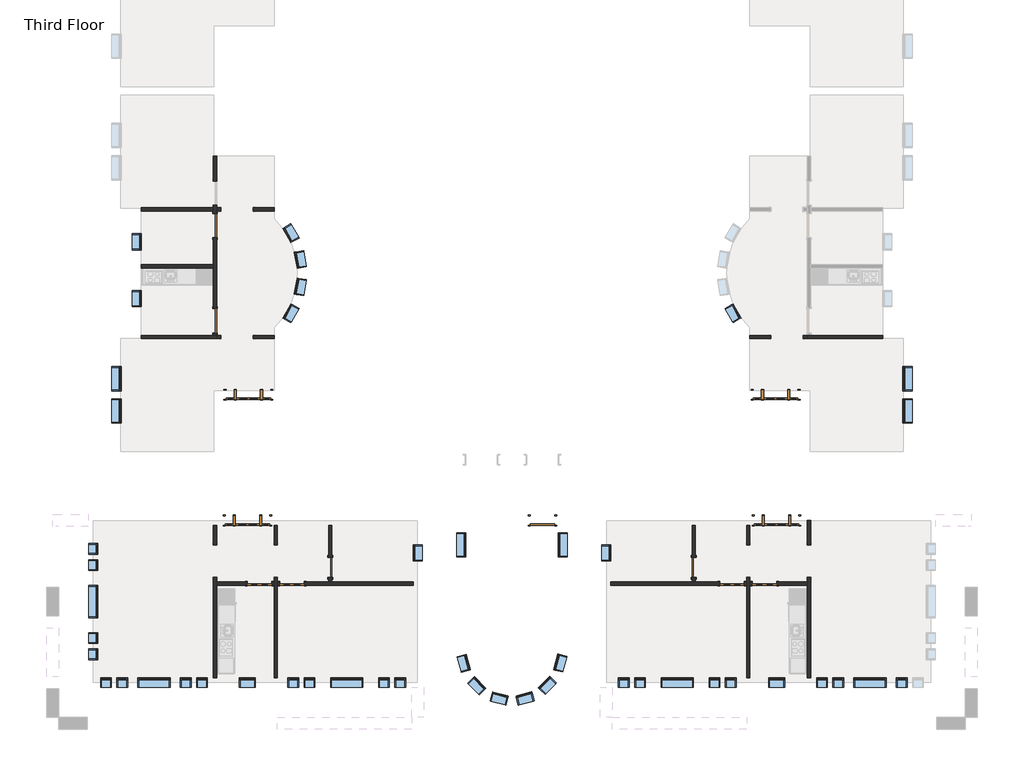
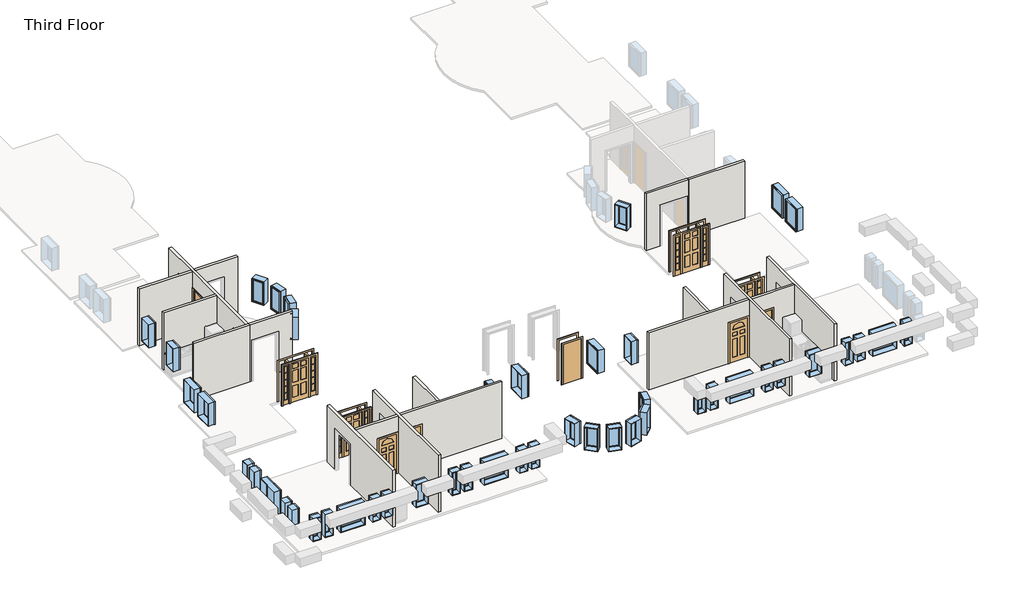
# One storey, part 1 of 4: 47 windows, 18 walls, 13 doors.
"""IFC4 building model written with IfcOpenShell, lengths in millimetres."""

from ifc_helpers import new_model, si_unit, frame, origin, place, context, project, spatial, polyline, outline, extrude, faceted_brep, transform, mapped, element, save
from components import door_829da954, door_2e3b4da2, door_4d6c7550, door_e36758a9, door_a1797ceb, door_a3eb833a, door_cc5399a4, door_dba5aa2e, door_ffdb1193, window_da97879f, window_d61ef850, window_60baf983, window_ed80354a, window_15c49d37, window_0e2fc6ce, window_6eb97611, window_d89bf842

model = new_model("IFC4")

# Units and contexts
model_context = context("Model", 3, world=origin())
ifc_project = project(units=[si_unit("LENGTHUNIT", "METRE", prefix="MILLI")], contexts=[model_context])

# Site, building, storey
site = spatial("IfcSite", under=ifc_project)
building = spatial("IfcBuilding", under=site)
storey = spatial("IfcBuildingStorey", under=building, Name="Third Floor", Elevation=6096.0)

# Doors
placement = place(None, origin())
door_shape = door_829da954(model_context)
element("IfcDoor", 1, ObjectType="Single-Decorative 2 : 36\" x 84\"", at=placement, inside=storey, context=model_context, shape_type="MappedRepresentation", body=[
    mapped(door_shape, transform((-6669.0589563, -30331.8808133, 6096.0), x_axis=(1.0, 0.0, 0.0), y_axis=(0.0, 1.0, 0.0), z_axis=(0.0, 0.0, 1.0))),
])
element("IfcDoor", 2, ObjectType="Single-Decorative 2 : 36\" x 84\"", at=placement, inside=storey, context=model_context, shape_type="MappedRepresentation", body=[
    mapped(door_shape, transform((-24420.4839563, -30331.8808133, 6096.0), x_axis=(1.0, 0.0, 0.0), y_axis=(0.0, 1.0, 0.0), z_axis=(0.0, 0.0, 1.0))),
])
door_2_shape = door_2e3b4da2(model_context)
element("IfcDoor", 3, ObjectType="Single-Decorative 2 : 36\" x 84\"", at=placement, inside=storey, context=model_context, shape_type="MappedRepresentation", body=[
    mapped(door_2_shape, transform((-5449.8589563, -30331.8808133, 6096.0), x_axis=(-1.0, 0.0, 0.0), y_axis=(0.0, -1.0, 0.0), z_axis=(0.0, 0.0, 1.0))),
])
element("IfcDoor", 4, ObjectType="Single-Decorative 2 : 36\" x 84\"", at=placement, inside=storey, context=model_context, shape_type="MappedRepresentation", body=[
    mapped(door_2_shape, transform((-23201.2839563, -30331.8808133, 6096.0), x_axis=(-1.0, 0.0, 0.0), y_axis=(0.0, -1.0, 0.0), z_axis=(0.0, 0.0, 1.0))),
])
door_3_shape = door_4d6c7550(model_context)
element("IfcDoor", 5, ObjectType="Single-Flush : 30\" x 84\"", at=placement, inside=storey, context=model_context, shape_type="MappedRepresentation", body=[
    mapped(door_3_shape, transform((-21764.5964563, -29722.2808133, 6096.0), x_axis=(0.0, -1.0, 0.0), y_axis=(1.0, 0.0, 0.0), z_axis=(0.0, 0.0, 1.0))),
])
door_4_shape = door_e36758a9(model_context)
element("IfcDoor", 6, ObjectType="Single-Flush : 30\" x 84\"", at=placement, inside=storey, context=model_context, shape_type="MappedRepresentation", body=[
    mapped(door_4_shape, transform((-8105.7464563, -29722.2808133, 6096.0), x_axis=(0.0, -1.0, 0.0), y_axis=(1.0, 0.0, 0.0), z_axis=(0.0, 0.0, 1.0))),
])
door_5_shape = door_a1797ceb(model_context)
element("IfcDoor", 7, ObjectType="Single-Flush : 36\" x 84\"", at=placement, inside=storey, context=model_context, shape_type="MappedRepresentation", body=[
    mapped(door_5_shape, transform((-26096.8839563, -20451.2808133, 6096.0), x_axis=(0.0, -1.0, 0.0), y_axis=(1.0, 0.0, 0.0), z_axis=(0.0, 0.0, 1.0))),
])
door_6_shape = door_a3eb833a(model_context)
element("IfcDoor", 8, ObjectType="Single-Flush : 36\" x 84\"", at=placement, inside=storey, context=model_context, shape_type="MappedRepresentation", body=[
    mapped(door_6_shape, transform((-26096.8839563, -16873.0558133, 6096.0), x_axis=(0.0, 1.0, 0.0), y_axis=(-1.0, 0.0, 0.0), z_axis=(0.0, 0.0, 1.0))),
])
door_7_shape = door_cc5399a4(model_context)
element("IfcDoor", 9, ObjectType="Single-Flush : 36\" x 84\"", at=placement, inside=storey, context=model_context, shape_type="MappedRepresentation", body=[
    mapped(door_7_shape, transform((-13792.1714563, -27958.5683133, 6096.0), x_axis=(1.0, 0.0, 0.0), y_axis=(0.0, 1.0, 0.0), z_axis=(0.0, 0.0, 1.0))),
])
door_8_shape = door_dba5aa2e(model_context)
element("IfcDoor", 10, ObjectType="Single-Raised Panel with Sidelights : 36\" x 84\"", at=placement, inside=storey, context=model_context, shape_type="MappedRepresentation", body=[
    mapped(door_8_shape, transform((-24877.6839563, -27958.5683133, 6096.0), x_axis=(1.0, 0.0, 0.0), y_axis=(0.0, 1.0, 0.0), z_axis=(0.0, 0.0, 1.0))),
])
element("IfcDoor", 11, ObjectType="Single-Raised Panel with Sidelights : 36\" x 84\"", at=placement, inside=storey, context=model_context, shape_type="MappedRepresentation", body=[
    mapped(door_8_shape, transform((-24841.1714563, -23234.1683133, 6096.0), x_axis=(1.0, 0.0, 0.0), y_axis=(0.0, 1.0, 0.0), z_axis=(0.0, 0.0, 1.0))),
])
door_9_shape = door_ffdb1193(model_context)
element("IfcDoor", 12, ObjectType="Single-Raised Panel with Sidelights : 36\" x 84\"", at=placement, inside=storey, context=model_context, shape_type="MappedRepresentation", body=[
    mapped(door_9_shape, transform((-4992.6589563, -27958.5683133, 6096.0), x_axis=(-1.0, 0.0, 0.0), y_axis=(0.0, -1.0, 0.0), z_axis=(0.0, 0.0, 1.0))),
])
element("IfcDoor", 13, ObjectType="Single-Raised Panel with Sidelights : 36\" x 84\"", at=placement, inside=storey, context=model_context, shape_type="MappedRepresentation", body=[
    mapped(door_9_shape, transform((-5029.1714563, -23234.1683133, 6096.0), x_axis=(-1.0, 0.0, 0.0), y_axis=(0.0, -1.0, 0.0), z_axis=(0.0, 0.0, 1.0))),
])

# Walls
element("IfcWall", 14, ObjectType="Interior - 5\" Partition (2-hr)", at=placement, inside=storey, context=model_context, shape_type="Brep", body=[
    faceted_brep([(-3709.9589563, -33878.3558133, 6096.0), (-3709.9589563, -30092.1683133, 6096.0), (-3709.9589563, -30092.1683133, 8229.6), (-3709.9589563, -28872.9683133, 8229.6), (-3709.9589563, -28872.9683133, 6096.0), (-3709.9589563, -27958.5683133, 6096.0), (-3709.9589563, -27958.5683133, 9144.0), (-3709.9589563, -33878.3558133, 9144.0), (-3836.9589563, -30092.1683133, 8229.6), (-3836.9589563, -30092.1683133, 6096.0), (-3836.9589563, -30268.3808133, 6096.0), (-3836.9589563, -30395.3808133, 6096.0), (-3836.9589563, -33878.3558133, 6096.0), (-3836.9589563, -33878.3558133, 9144.0), (-3836.9589563, -30395.3808133, 9144.0), (-3836.9589563, -30268.3808133, 9144.0), (-3836.9589563, -27958.5683133, 9144.0), (-3836.9589563, -27958.5683133, 6096.0), (-3836.9589563, -28872.9683133, 6096.0), (-3836.9589563, -28872.9683133, 8229.6)], [[[0, 1, 2, 3, 4, 5, 6, 7]], [[8, 9, 10, 11, 12, 13, 14, 15, 16, 17, 18, 19]], [[12, 11, 10, 9, 1, 0]], [[18, 17, 5, 4]], [[6, 5, 17, 16]], [[7, 6, 16, 15, 14, 13]], [[0, 7, 13, 12]], [[4, 3, 19, 18]], [[2, 1, 9, 8]], [[3, 2, 8, 19]]]),
])
element("IfcWall", 15, ObjectType="Interior - 5\" Partition (2-hr)", at=placement, inside=storey, context=model_context, shape_type="Brep", body=[
    faceted_brep([(-5995.9589563, -28872.9683133, 8229.6), (-5995.9589563, -28872.9683133, 6096.0), (-5995.9589563, -28134.7808133, 6096.0), (-5995.9589563, -28134.7808133, 9144.0), (-5995.9589563, -30268.3808133, 9144.0), (-5995.9589563, -30395.3808133, 9144.0), (-5995.9589563, -33878.3558133, 9144.0), (-5995.9589563, -33878.3558133, 6096.0), (-5995.9589563, -30395.3808133, 6096.0), (-5995.9589563, -30268.3808133, 6096.0), (-5995.9589563, -30092.1683133, 6096.0), (-5995.9589563, -30092.1683133, 8229.6), (-6122.9589563, -28134.7808133, 6096.0), (-6122.9589563, -28872.9683133, 6096.0), (-6122.9589563, -28872.9683133, 8229.6), (-6122.9589563, -30092.1683133, 8229.6), (-6122.9589563, -30092.1683133, 6096.0), (-6122.9589563, -30268.3808133, 6096.0), (-6122.9589563, -30395.3808133, 6096.0), (-6122.9589563, -33878.3558133, 6096.0), (-6122.9589563, -33878.3558133, 9144.0), (-6122.9589563, -30395.3808133, 9144.0), (-6122.9589563, -30268.3808133, 9144.0), (-6122.9589563, -28134.7808133, 9144.0)], [[[0, 1, 2, 3, 4, 5, 6, 7, 8, 9, 10, 11]], [[12, 13, 14, 15, 16, 17, 18, 19, 20, 21, 22, 23]], [[2, 1, 13, 12]], [[10, 9, 8, 7, 19, 18, 17, 16]], [[6, 5, 4, 3, 23, 22, 21, 20]], [[7, 6, 20, 19]], [[3, 2, 12, 23]], [[16, 15, 11, 10]], [[14, 13, 1, 0]], [[15, 14, 0, 11]]]),
])
element("IfcWall", 16, ObjectType="Interior - 5\" Partition (2-hr)", at=placement, inside=storey, context=model_context, shape_type="Brep", body=[
    faceted_brep([(-6211.8589563, -30395.3808133, 8229.6), (-6211.8589563, -30395.3808133, 6096.0), (-6122.9589563, -30395.3808133, 6096.0), (-6122.9589563, -30395.3808133, 9144.0), (-11217.2464563, -30395.3808133, 9144.0), (-11217.2464563, -30395.3808133, 6096.0), (-7126.2589563, -30395.3808133, 6096.0), (-7126.2589563, -30395.3808133, 8229.6), (-6122.9589563, -30268.3808133, 6096.0), (-6211.8589563, -30268.3808133, 6096.0), (-6211.8589563, -30268.3808133, 8229.6), (-7126.2589563, -30268.3808133, 8229.6), (-7126.2589563, -30268.3808133, 6096.0), (-8042.2464563, -30268.3808133, 6096.0), (-8169.2464563, -30268.3808133, 6096.0), (-11217.2464563, -30268.3808133, 6096.0), (-11217.2464563, -30268.3808133, 9144.0), (-8169.2464563, -30268.3808133, 9144.0), (-8042.2464563, -30268.3808133, 9144.0), (-6122.9589563, -30268.3808133, 9144.0)], [[[0, 1, 2, 3, 4, 5, 6, 7]], [[8, 9, 10, 11, 12, 13, 14, 15, 16, 17, 18, 19]], [[2, 1, 9, 8]], [[6, 5, 15, 14, 13, 12]], [[4, 3, 19, 18, 17, 16]], [[3, 2, 8, 19]], [[5, 4, 16, 15]], [[10, 9, 1, 0]], [[11, 10, 0, 7]], [[12, 11, 7, 6]]]),
])
element("IfcWall", 17, ObjectType="Interior - 5\" Partition (2-hr)", at=placement, inside=storey, context=model_context, shape_type="SweptSolid", body=[
    extrude(outline(polyline([(-30103.2808133, 8229.6), (-30103.2808133, 6096.0), (-30268.3808133, 6096.0), (-30268.3808133, 9144.0), (-28134.7808133, 9144.0), (-28134.7808133, 6096.0), (-29341.2808133, 6096.0), (-29341.2808133, 8229.6), (-30103.2808133, 8229.6)])), frame((-8169.2464563, 0.0, 0.0), z_axis=(1.0, 0.0, 0.0), x_axis=(0.0, 1.0, 0.0)), (0.0, 0.0, 1.0), 127.0),
])
element("IfcWall", 18, ObjectType="Interior - 5\" Partition (2-hr)", at=placement, inside=storey, context=model_context, shape_type="SweptSolid", body=[
    extrude(outline(polyline([(6096.0, -5995.9589563), (6096.0, -5907.0589563), (8229.6, -5907.0589563), (8229.6, -4992.6589563), (6096.0, -4992.6589563), (6096.0, -3836.9589563), (9144.0, -3836.9589563), (9144.0, -5995.9589563), (6096.0, -5995.9589563)])), frame((0.0, -30395.3808133, 0.0), z_axis=(0.0, 1.0, 0.0), x_axis=(0.0, 0.0, 1.0)), (0.0, 0.0, 1.0), 127.0),
])
element("IfcWall", 19, ObjectType="Interior - 5\" Partition (2-hr)", at=placement, inside=storey, context=model_context, shape_type="Brep", body=[
    faceted_brep([(-1014.3839563, -20997.3808133, 6096.0), (-3709.9589563, -20997.3808133, 6096.0), (-3836.9589563, -20997.3808133, 6096.0), (-3836.9589563, -20997.3808133, 9144.0), (-3709.9589563, -20997.3808133, 9144.0), (-1014.3839563, -20997.3808133, 9144.0), (-1014.3839563, -21124.3808133, 6096.0), (-1014.3839563, -21124.3808133, 9144.0), (-3836.9589563, -21124.3808133, 9144.0), (-3836.9589563, -21124.3808133, 6096.0)], [[[0, 1, 2, 3, 4, 5]], [[6, 7, 8, 9]], [[2, 1, 0, 6, 9]], [[5, 4, 3, 8, 7]], [[3, 2, 9, 8]], [[0, 5, 7, 6]]]),
])
element("IfcWall", 20, ObjectType="Interior - 5\" Partition (2-hr)", at=placement, inside=storey, context=model_context, shape_type="SweptSolid", body=[
    extrude(outline(polyline([(8229.6, -4002.0589563), (6096.0, -4002.0589563), (6096.0, -3836.9589563), (9144.0, -3836.9589563), (9144.0, -5995.9589563), (6096.0, -5995.9589563), (6096.0, -5221.2589563), (8229.6, -5221.2589563), (8229.6, -4002.0589563)])), frame((0.0, -21124.3808133, 0.0), z_axis=(0.0, 1.0, 0.0), x_axis=(0.0, 0.0, 1.0)), (0.0, 0.0, 1.0), 127.0),
])
element("IfcWall", 21, ObjectType="Interior - 5\" Partition (2-hr)", at=placement, inside=storey, context=model_context, shape_type="Brep", body=[
    faceted_brep([(-26033.3839563, -33878.3558133, 6096.0), (-26033.3839563, -30395.3808133, 6096.0), (-26033.3839563, -30268.3808133, 6096.0), (-26033.3839563, -30092.1683133, 6096.0), (-26033.3839563, -30092.1683133, 8229.6), (-26033.3839563, -28872.9683133, 8229.6), (-26033.3839563, -28872.9683133, 6096.0), (-26033.3839563, -28134.7808133, 6096.0), (-26033.3839563, -28134.7808133, 9144.0), (-26033.3839563, -30268.3808133, 9144.0), (-26033.3839563, -30395.3808133, 9144.0), (-26033.3839563, -33878.3558133, 9144.0), (-26160.3839563, -30092.1683133, 8229.6), (-26160.3839563, -30092.1683133, 6096.0), (-26160.3839563, -33878.3558133, 6096.0), (-26160.3839563, -33878.3558133, 9144.0), (-26160.3839563, -28134.7808133, 9144.0), (-26160.3839563, -28134.7808133, 6096.0), (-26160.3839563, -28872.9683133, 6096.0), (-26160.3839563, -28872.9683133, 8229.6)], [[[0, 1, 2, 3, 4, 5, 6, 7, 8, 9, 10, 11]], [[12, 13, 14, 15, 16, 17, 18, 19]], [[14, 13, 3, 2, 1, 0]], [[18, 17, 7, 6]], [[11, 10, 9, 8, 16, 15]], [[0, 11, 15, 14]], [[8, 7, 17, 16]], [[6, 5, 19, 18]], [[4, 3, 13, 12]], [[5, 4, 12, 19]]]),
])
element("IfcWall", 22, ObjectType="Interior - 5\" Partition (2-hr)", at=placement, inside=storey, context=model_context, shape_type="Brep", body=[
    faceted_brep([(-23747.3839563, -28872.9683133, 8229.6), (-23747.3839563, -28872.9683133, 6096.0), (-23747.3839563, -28134.7808133, 6096.0), (-23747.3839563, -28134.7808133, 9144.0), (-23747.3839563, -30268.3808133, 9144.0), (-23747.3839563, -30395.3808133, 9144.0), (-23747.3839563, -33878.3558133, 9144.0), (-23747.3839563, -33878.3558133, 6096.0), (-23747.3839563, -30395.3808133, 6096.0), (-23747.3839563, -30268.3808133, 6096.0), (-23747.3839563, -30092.1683133, 6096.0), (-23747.3839563, -30092.1683133, 8229.6), (-23874.3839563, -28134.7808133, 6096.0), (-23874.3839563, -28872.9683133, 6096.0), (-23874.3839563, -28872.9683133, 8229.6), (-23874.3839563, -30092.1683133, 8229.6), (-23874.3839563, -30092.1683133, 6096.0), (-23874.3839563, -30268.3808133, 6096.0), (-23874.3839563, -30395.3808133, 6096.0), (-23874.3839563, -33878.3558133, 6096.0), (-23874.3839563, -33878.3558133, 9144.0), (-23874.3839563, -30395.3808133, 9144.0), (-23874.3839563, -30268.3808133, 9144.0), (-23874.3839563, -28134.7808133, 9144.0)], [[[0, 1, 2, 3, 4, 5, 6, 7, 8, 9, 10, 11]], [[12, 13, 14, 15, 16, 17, 18, 19, 20, 21, 22, 23]], [[2, 1, 13, 12]], [[10, 9, 8, 7, 19, 18, 17, 16]], [[6, 5, 4, 3, 23, 22, 21, 20]], [[7, 6, 20, 19]], [[3, 2, 12, 23]], [[16, 15, 11, 10]], [[14, 13, 1, 0]], [[15, 14, 0, 11]]]),
])
element("IfcWall", 23, ObjectType="Interior - 5\" Partition (2-hr)", at=placement, inside=storey, context=model_context, shape_type="Brep", body=[
    faceted_brep([(-23658.4839563, -30268.3808133, 8229.6), (-23658.4839563, -30268.3808133, 6096.0), (-23747.3839563, -30268.3808133, 6096.0), (-23747.3839563, -30268.3808133, 9144.0), (-21828.0964563, -30268.3808133, 9144.0), (-21701.0964563, -30268.3808133, 9144.0), (-18653.0964563, -30268.3808133, 9144.0), (-18653.0964563, -30268.3808133, 6096.0), (-21701.0964563, -30268.3808133, 6096.0), (-21828.0964563, -30268.3808133, 6096.0), (-22744.0839563, -30268.3808133, 6096.0), (-22744.0839563, -30268.3808133, 8229.6), (-23747.3839563, -30395.3808133, 6096.0), (-23658.4839563, -30395.3808133, 6096.0), (-23658.4839563, -30395.3808133, 8229.6), (-22744.0839563, -30395.3808133, 8229.6), (-22744.0839563, -30395.3808133, 6096.0), (-18653.0964563, -30395.3808133, 6096.0), (-18653.0964563, -30395.3808133, 9144.0), (-23747.3839563, -30395.3808133, 9144.0)], [[[0, 1, 2, 3, 4, 5, 6, 7, 8, 9, 10, 11]], [[12, 13, 14, 15, 16, 17, 18, 19]], [[2, 1, 13, 12]], [[10, 9, 8, 7, 17, 16]], [[6, 5, 4, 3, 19, 18]], [[3, 2, 12, 19]], [[7, 6, 18, 17]], [[14, 13, 1, 0]], [[15, 14, 0, 11]], [[16, 15, 11, 10]]]),
])
element("IfcWall", 24, ObjectType="Interior - 5\" Partition (2-hr)", at=placement, inside=storey, context=model_context, shape_type="SweptSolid", body=[
    extrude(outline(polyline([(-30103.2808133, 8229.6), (-30103.2808133, 6096.0), (-30268.3808133, 6096.0), (-30268.3808133, 9144.0), (-28134.7808133, 9144.0), (-28134.7808133, 6096.0), (-29341.2808133, 6096.0), (-29341.2808133, 8229.6), (-30103.2808133, 8229.6)])), frame((-21828.0964563, 0.0, 0.0), z_axis=(1.0, 0.0, 0.0), x_axis=(0.0, 1.0, 0.0)), (0.0, 0.0, 1.0), 127.0),
])
element("IfcWall", 25, ObjectType="Interior - 5\" Partition (2-hr)", at=placement, inside=storey, context=model_context, shape_type="SweptSolid", body=[
    extrude(outline(polyline([(8229.6, -23963.2839563), (6096.0, -23963.2839563), (6096.0, -23874.3839563), (9144.0, -23874.3839563), (9144.0, -26033.3839563), (6096.0, -26033.3839563), (6096.0, -24877.6839563), (8229.6, -24877.6839563), (8229.6, -23963.2839563)])), frame((0.0, -30395.3808133, 0.0), z_axis=(0.0, 1.0, 0.0), x_axis=(0.0, 0.0, 1.0)), (0.0, 0.0, 1.0), 127.0),
])
element("IfcWall", 26, ObjectType="Interior - 5\" Partition (2-hr)", at=placement, inside=storey, context=model_context, shape_type="Brep", body=[
    faceted_brep([(-28855.9589563, -21124.3808133, 6096.0), (-26033.3839563, -21124.3808133, 6096.0), (-26033.3839563, -21124.3808133, 9144.0), (-28855.9589563, -21124.3808133, 9144.0), (-28855.9589563, -20997.3808133, 6096.0), (-28855.9589563, -20997.3808133, 9144.0), (-26160.3839563, -20997.3808133, 9144.0), (-26033.3839563, -20997.3808133, 9144.0), (-26033.3839563, -20997.3808133, 6096.0), (-26160.3839563, -20997.3808133, 6096.0)], [[[0, 1, 2, 3]], [[4, 5, 6, 7, 8, 9]], [[1, 0, 4, 9, 8]], [[3, 2, 7, 6, 5]], [[2, 1, 8, 7]], [[0, 3, 5, 4]]]),
])
element("IfcWall", 27, ObjectType="Interior - 5\" Partition (2-hr)", at=placement, inside=storey, context=model_context, shape_type="Brep", body=[
    faceted_brep([(-26160.3839563, -16111.0558133, 8229.6), (-26160.3839563, -16111.0558133, 6096.0), (-26160.3839563, -16199.9558133, 6096.0), (-26160.3839563, -16326.9558133, 6096.0), (-26160.3839563, -16415.8558133, 6096.0), (-26160.3839563, -16415.8558133, 8229.6), (-26160.3839563, -17330.2558133, 8229.6), (-26160.3839563, -17330.2558133, 6096.0), (-26160.3839563, -18333.5558133, 6096.0), (-26160.3839563, -18460.5558133, 6096.0), (-26160.3839563, -19994.0808133, 6096.0), (-26160.3839563, -19994.0808133, 8229.6), (-26160.3839563, -20908.4808133, 8229.6), (-26160.3839563, -20908.4808133, 6096.0), (-26160.3839563, -20997.3808133, 6096.0), (-26160.3839563, -20997.3808133, 9144.0), (-26160.3839563, -18460.5558133, 9144.0), (-26160.3839563, -18333.5558133, 9144.0), (-26160.3839563, -16326.9558133, 9144.0), (-26160.3839563, -16199.9558133, 9144.0), (-26160.3839563, -14266.3808133, 9144.0), (-26160.3839563, -14266.3808133, 6096.0), (-26160.3839563, -15196.6558133, 6096.0), (-26160.3839563, -15196.6558133, 8229.6), (-26033.3839563, -16415.8558133, 6096.0), (-26033.3839563, -16326.9558133, 6096.0), (-26033.3839563, -16199.9558133, 6096.0), (-26033.3839563, -16111.0558133, 6096.0), (-26033.3839563, -16111.0558133, 8229.6), (-26033.3839563, -15196.6558133, 8229.6), (-26033.3839563, -15196.6558133, 6096.0), (-26033.3839563, -14266.3808133, 6096.0), (-26033.3839563, -14266.3808133, 9144.0), (-26033.3839563, -16199.9558133, 9144.0), (-26033.3839563, -16326.9558133, 9144.0), (-26033.3839563, -20997.3808133, 9144.0), (-26033.3839563, -20997.3808133, 6096.0), (-26033.3839563, -20908.4808133, 6096.0), (-26033.3839563, -20908.4808133, 8229.6), (-26033.3839563, -19994.0808133, 8229.6), (-26033.3839563, -19994.0808133, 6096.0), (-26033.3839563, -17330.2558133, 6096.0), (-26033.3839563, -17330.2558133, 8229.6), (-26033.3839563, -16415.8558133, 8229.6)], [[[0, 1, 2, 3, 4, 5, 6, 7, 8, 9, 10, 11, 12, 13, 14, 15, 16, 17, 18, 19, 20, 21, 22, 23]], [[24, 25, 26, 27, 28, 29, 30, 31, 32, 33, 34, 35, 36, 37, 38, 39, 40, 41, 42, 43]], [[14, 13, 37, 36]], [[4, 3, 2, 1, 27, 26, 25, 24]], [[41, 40, 10, 9, 8, 7]], [[22, 21, 31, 30]], [[20, 19, 18, 17, 16, 15, 35, 34, 33, 32]], [[15, 14, 36, 35]], [[21, 20, 32, 31]], [[38, 37, 13, 12]], [[39, 38, 12, 11]], [[40, 39, 11, 10]], [[5, 4, 24, 43]], [[6, 5, 43, 42]], [[7, 6, 42, 41]], [[28, 27, 1, 0]], [[29, 28, 0, 23]], [[30, 29, 23, 22]]]),
])
element("IfcWall", 28, ObjectType="Interior - 5\" Partition (2-hr)", at=placement, inside=storey, context=model_context, shape_type="SweptSolid", body=[
    extrude(outline(polyline([(-26160.3839563, -16326.9558133), (-28855.9589563, -16326.9558133), (-28855.9589563, -16199.9558133), (-26160.3839563, -16199.9558133), (-26160.3839563, -16326.9558133)])), frame((0.0, 0.0, 6096.0), z_axis=(0.0, 0.0, 1.0), x_axis=(1.0, 0.0, 0.0)), (0.0, 0.0, 1.0), 3048.0),
])
element("IfcWall", 29, ObjectType="Interior - 5\" Partition (2-hr)", at=placement, inside=storey, context=model_context, shape_type="SweptSolid", body=[
    extrude(outline(polyline([(-28855.9589563, -18333.5558133), (-26160.3839563, -18333.5558133), (-26160.3839563, -18460.5558133), (-28855.9589563, -18460.5558133), (-28855.9589563, -18333.5558133)])), frame((0.0, 0.0, 6096.0), z_axis=(0.0, 0.0, 1.0), x_axis=(1.0, 0.0, 0.0)), (0.0, 0.0, 1.0), 3048.0),
])
element("IfcWall", 30, ObjectType="Interior - 5\" Partition (2-hr)", at=placement, inside=storey, context=model_context, shape_type="SweptSolid", body=[
    extrude(outline(polyline([(8229.6, -24649.0839563), (6096.0, -24649.0839563), (6096.0, -23874.3839563), (9144.0, -23874.3839563), (9144.0, -26033.3839563), (6096.0, -26033.3839563), (6096.0, -25868.2839563), (8229.6, -25868.2839563), (8229.6, -24649.0839563)])), frame((0.0, -16326.9558133, 0.0), z_axis=(0.0, 1.0, 0.0), x_axis=(0.0, 0.0, 1.0)), (0.0, 0.0, 1.0), 127.0),
])
element("IfcWall", 31, ObjectType="Interior - 5\" Partition (2-hr)", at=placement, inside=storey, context=model_context, shape_type="SweptSolid", body=[
    extrude(outline(polyline([(6096.0, -26033.3839563), (6096.0, -25868.2839563), (8229.6, -25868.2839563), (8229.6, -24649.0839563), (6096.0, -24649.0839563), (6096.0, -23874.3839563), (9144.0, -23874.3839563), (9144.0, -26033.3839563), (6096.0, -26033.3839563)])), frame((0.0, -21124.3808133, 0.0), z_axis=(0.0, 1.0, 0.0), x_axis=(0.0, 0.0, 1.0)), (0.0, 0.0, 1.0), 127.0),
])

# Windows
window_shape = window_da97879f(model_context)
element("IfcWindow", 32, ObjectType="Fixed : 16\" x 48\"", at=placement, inside=storey, context=model_context, shape_type="MappedRepresentation", body=[
    mapped(window_shape, transform((-6681.7589563, -34054.5683133, 6096.0), x_axis=(1.0, 0.0, 0.0), y_axis=(0.0, 1.0, 0.0), z_axis=(0.0, 0.0, 1.0))),
])
element("IfcWindow", 33, ObjectType="Fixed : 16\" x 48\"", at=placement, inside=storey, context=model_context, shape_type="MappedRepresentation", body=[
    mapped(window_shape, transform((-7291.3589563, -34054.5683133, 6096.0), x_axis=(1.0, 0.0, 0.0), y_axis=(0.0, 1.0, 0.0), z_axis=(0.0, 0.0, 1.0))),
])
element("IfcWindow", 34, ObjectType="Fixed : 16\" x 48\"", at=placement, inside=storey, context=model_context, shape_type="MappedRepresentation", body=[
    mapped(window_shape, transform((-255.5589563, -34054.5683133, 6096.0), x_axis=(1.0, 0.0, 0.0), y_axis=(0.0, 1.0, 0.0), z_axis=(0.0, 0.0, 1.0))),
])
element("IfcWindow", 35, ObjectType="Fixed : 16\" x 48\"", at=placement, inside=storey, context=model_context, shape_type="MappedRepresentation", body=[
    mapped(window_shape, transform((-19099.1839563, -34054.5683133, 6096.0), x_axis=(1.0, 0.0, 0.0), y_axis=(0.0, 1.0, 0.0), z_axis=(0.0, 0.0, 1.0))),
])
element("IfcWindow", 36, ObjectType="Fixed : 16\" x 48\"", at=placement, inside=storey, context=model_context, shape_type="MappedRepresentation", body=[
    mapped(window_shape, transform((-19708.7839563, -34054.5683133, 6096.0), x_axis=(1.0, 0.0, 0.0), y_axis=(0.0, 1.0, 0.0), z_axis=(0.0, 0.0, 1.0))),
])
element("IfcWindow", 37, ObjectType="Fixed : 16\" x 48\"", at=placement, inside=storey, context=model_context, shape_type="MappedRepresentation", body=[
    mapped(window_shape, transform((-26541.3839563, -34054.5683133, 6096.0), x_axis=(1.0, 0.0, 0.0), y_axis=(0.0, 1.0, 0.0), z_axis=(0.0, 0.0, 1.0))),
])
element("IfcWindow", 38, ObjectType="Fixed : 16\" x 48\"", at=placement, inside=storey, context=model_context, shape_type="MappedRepresentation", body=[
    mapped(window_shape, transform((-27150.9839563, -34054.5683133, 6096.0), x_axis=(1.0, 0.0, 0.0), y_axis=(0.0, 1.0, 0.0), z_axis=(0.0, 0.0, 1.0))),
])
element("IfcWindow", 39, ObjectType="Fixed : 16\" x 48\"", at=placement, inside=storey, context=model_context, shape_type="MappedRepresentation", body=[
    mapped(window_shape, transform((-30668.8839563, -33025.8683133, 6096.0), x_axis=(0.0, -1.0, 0.0), y_axis=(1.0, 0.0, 0.0), z_axis=(0.0, 0.0, 1.0))),
])
element("IfcWindow", 40, ObjectType="Fixed : 16\" x 48\"", at=placement, inside=storey, context=model_context, shape_type="MappedRepresentation", body=[
    mapped(window_shape, transform((-30668.8839563, -32416.2683133, 6096.0), x_axis=(0.0, -1.0, 0.0), y_axis=(1.0, 0.0, 0.0), z_axis=(0.0, 0.0, 1.0))),
])
window_2_shape = window_d61ef850(model_context)
element("IfcWindow", 41, ObjectType="Fixed : 16\" x 48\"", at=placement, inside=storey, context=model_context, shape_type="MappedRepresentation", body=[
    mapped(window_2_shape, transform((-10771.1589563, -34054.5683133, 6096.0), x_axis=(-1.0, 0.0, 0.0), y_axis=(0.0, -1.0, 0.0), z_axis=(0.0, 0.0, 1.0))),
])
element("IfcWindow", 42, ObjectType="Fixed : 16\" x 48\"", at=placement, inside=storey, context=model_context, shape_type="MappedRepresentation", body=[
    mapped(window_2_shape, transform((-10161.5589563, -34054.5683133, 6096.0), x_axis=(-1.0, 0.0, 0.0), y_axis=(0.0, -1.0, 0.0), z_axis=(0.0, 0.0, 1.0))),
])
element("IfcWindow", 43, ObjectType="Fixed : 16\" x 48\"", at=placement, inside=storey, context=model_context, shape_type="MappedRepresentation", body=[
    mapped(window_2_shape, transform((-3328.9589563, -34054.5683133, 6096.0), x_axis=(-1.0, 0.0, 0.0), y_axis=(0.0, -1.0, 0.0), z_axis=(0.0, 0.0, 1.0))),
])
element("IfcWindow", 44, ObjectType="Fixed : 16\" x 48\"", at=placement, inside=storey, context=model_context, shape_type="MappedRepresentation", body=[
    mapped(window_2_shape, transform((-2719.3589563, -34054.5683133, 6096.0), x_axis=(-1.0, 0.0, 0.0), y_axis=(0.0, -1.0, 0.0), z_axis=(0.0, 0.0, 1.0))),
])
element("IfcWindow", 45, ObjectType="Fixed : 16\" x 48\"", at=placement, inside=storey, context=model_context, shape_type="MappedRepresentation", body=[
    mapped(window_2_shape, transform((-23188.5839563, -34054.5683133, 6096.0), x_axis=(-1.0, 0.0, 0.0), y_axis=(0.0, -1.0, 0.0), z_axis=(0.0, 0.0, 1.0))),
])
element("IfcWindow", 46, ObjectType="Fixed : 16\" x 48\"", at=placement, inside=storey, context=model_context, shape_type="MappedRepresentation", body=[
    mapped(window_2_shape, transform((-22578.9839563, -34054.5683133, 6096.0), x_axis=(-1.0, 0.0, 0.0), y_axis=(0.0, -1.0, 0.0), z_axis=(0.0, 0.0, 1.0))),
])
element("IfcWindow", 47, ObjectType="Fixed : 16\" x 48\"", at=placement, inside=storey, context=model_context, shape_type="MappedRepresentation", body=[
    mapped(window_2_shape, transform((-30224.3839563, -34054.5683133, 6096.0), x_axis=(-1.0, 0.0, 0.0), y_axis=(0.0, -1.0, 0.0), z_axis=(0.0, 0.0, 1.0))),
])
element("IfcWindow", 48, ObjectType="Fixed : 16\" x 48\"", at=placement, inside=storey, context=model_context, shape_type="MappedRepresentation", body=[
    mapped(window_2_shape, transform((-29614.7839563, -34054.5683133, 6096.0), x_axis=(-1.0, 0.0, 0.0), y_axis=(0.0, -1.0, 0.0), z_axis=(0.0, 0.0, 1.0))),
])
element("IfcWindow", 49, ObjectType="Fixed : 16\" x 48\"", at=placement, inside=storey, context=model_context, shape_type="MappedRepresentation", body=[
    mapped(window_2_shape, transform((-30668.8839563, -28987.2683133, 6096.0), x_axis=(0.0, 1.0, 0.0), y_axis=(-1.0, 0.0, 0.0), z_axis=(0.0, 0.0, 1.0))),
])
element("IfcWindow", 50, ObjectType="Fixed : 16\" x 48\"", at=placement, inside=storey, context=model_context, shape_type="MappedRepresentation", body=[
    mapped(window_2_shape, transform((-30668.8839563, -29596.8683133, 6096.0), x_axis=(0.0, 1.0, 0.0), y_axis=(-1.0, 0.0, 0.0), z_axis=(0.0, 0.0, 1.0))),
])
window_3_shape = window_60baf983(model_context)
element("IfcWindow", 51, ObjectType="Fixed : 24\" x 48\"", at=placement, inside=storey, context=model_context, shape_type="MappedRepresentation", body=[
    mapped(window_3_shape, transform((-24839.5839563, -34054.5683133, 6096.0), x_axis=(1.0, 0.0, 0.0), y_axis=(0.0, 1.0, 0.0), z_axis=(0.0, 0.0, 1.0))),
])
element("IfcWindow", 52, ObjectType="Fixed : 24\" x 48\"", at=placement, inside=storey, context=model_context, shape_type="MappedRepresentation", body=[
    mapped(window_3_shape, transform((-18476.8839563, -29139.6683133, 6096.0), x_axis=(0.0, 1.0, 0.0), y_axis=(-1.0, 0.0, 0.0), z_axis=(0.0, 0.0, 1.0))),
])
element("IfcWindow", 53, ObjectType="Fixed : 24\" x 48\"", at=placement, inside=storey, context=model_context, shape_type="MappedRepresentation", body=[
    mapped(window_3_shape, transform((-23222.1961911, -20134.3150929, 6096.0), x_axis=(0.49619108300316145, 0.8682133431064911, 0.0), y_axis=(-0.8682133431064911, 0.49619108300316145, 0.0), z_axis=(0.0, 0.0, 1.0))),
])
element("IfcWindow", 54, ObjectType="Fixed : 24\" x 48\"", at=placement, inside=storey, context=model_context, shape_type="MappedRepresentation", body=[
    mapped(window_3_shape, transform((-22878.8677992, -19139.5143296, 6096.0), x_axis=(0.16973229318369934, 0.9854902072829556, 0.0), y_axis=(-0.9854902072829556, 0.16973229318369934, 0.0), z_axis=(0.0, 0.0, 1.0))),
])
window_4_shape = window_ed80354a(model_context)
element("IfcWindow", 55, ObjectType="Fixed : 24\" x 48\"", at=placement, inside=storey, context=model_context, shape_type="MappedRepresentation", body=[
    mapped(window_4_shape, transform((-5030.7589563, -34054.5683133, 6096.0), x_axis=(-1.0, 0.0, 0.0), y_axis=(0.0, -1.0, 0.0), z_axis=(0.0, 0.0, 1.0))),
])
element("IfcWindow", 56, ObjectType="Fixed : 24\" x 48\"", at=placement, inside=storey, context=model_context, shape_type="MappedRepresentation", body=[
    mapped(window_4_shape, transform((-11393.4589563, -29139.6683133, 6096.0), x_axis=(0.0, 1.0, 0.0), y_axis=(-1.0, 0.0, 0.0), z_axis=(0.0, 0.0, 1.0))),
])
element("IfcWindow", 57, ObjectType="Fixed : 24\" x 48\"", at=placement, inside=storey, context=model_context, shape_type="MappedRepresentation", body=[
    mapped(window_4_shape, transform((-16757.5848795, -33290.1635131, 6096.0), x_axis=(-0.2617614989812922, 0.9651325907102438, 0.0), y_axis=(-0.9651325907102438, -0.2617614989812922, 0.0), z_axis=(0.0, 0.0, 1.0))),
])
element("IfcWindow", 58, ObjectType="Fixed : 24\" x 48\"", at=placement, inside=storey, context=model_context, shape_type="MappedRepresentation", body=[
    mapped(window_4_shape, transform((-16286.0301771, -34140.4392215, 6096.0), x_axis=(-0.7092584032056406, 0.7049485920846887, 0.0), y_axis=(-0.7049485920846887, -0.7092584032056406, 0.0), z_axis=(0.0, 0.0, 1.0))),
])
element("IfcWindow", 59, ObjectType="Fixed : 24\" x 48\"", at=placement, inside=storey, context=model_context, shape_type="MappedRepresentation", body=[
    mapped(window_4_shape, transform((-15452.5139714, -34641.0222339, 6096.0), x_axis=(-0.9667100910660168, 0.25587418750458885, 0.0), y_axis=(-0.25587418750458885, -0.9667100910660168, 0.0), z_axis=(0.0, 0.0, 1.0))),
])
element("IfcWindow", 60, ObjectType="Fixed : 24\" x 48\"", at=placement, inside=storey, context=model_context, shape_type="MappedRepresentation", body=[
    mapped(window_4_shape, transform((-14480.3762565, -34657.7817365, 6096.0), x_axis=(-0.9651325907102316, -0.26176149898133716, 0.0), y_axis=(0.26176149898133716, -0.9651325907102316, 0.0), z_axis=(0.0, 0.0, 1.0))),
])
element("IfcWindow", 61, ObjectType="Fixed : 24\" x 48\"", at=placement, inside=storey, context=model_context, shape_type="MappedRepresentation", body=[
    mapped(window_4_shape, transform((-13630.1005482, -34186.2270341, 6096.0), x_axis=(-0.7049485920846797, -0.7092584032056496, 0.0), y_axis=(0.7092584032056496, -0.7049485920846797, 0.0), z_axis=(0.0, 0.0, 1.0))),
])
element("IfcWindow", 62, ObjectType="Fixed : 24\" x 48\"", at=placement, inside=storey, context=model_context, shape_type="MappedRepresentation", body=[
    mapped(window_4_shape, transform((-13129.5175357, -33352.7108284, 6096.0), x_axis=(-0.2558741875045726, -0.9667100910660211, 0.0), y_axis=(0.9667100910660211, -0.2558741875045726, 0.0), z_axis=(0.0, 0.0, 1.0))),
])
element("IfcWindow", 63, ObjectType="Fixed : 24\" x 48\"", at=placement, inside=storey, context=model_context, shape_type="MappedRepresentation", body=[
    mapped(window_4_shape, transform((-6646.5999888, -20133.4311225, 6096.0), x_axis=(-0.4961910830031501, 0.8682133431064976, 0.0), y_axis=(-0.8682133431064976, -0.4961910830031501, 0.0), z_axis=(0.0, 0.0, 1.0))),
])
element("IfcWindow", 64, ObjectType="Fixed : 24\" x 48\"", at=placement, inside=storey, context=model_context, shape_type="MappedRepresentation", body=[
    mapped(window_4_shape, transform((-29032.1714563, -19578.1558133, 6096.0), x_axis=(0.0, 1.0, 0.0), y_axis=(-1.0, 0.0, 0.0), z_axis=(0.0, 0.0, 1.0))),
])
element("IfcWindow", 65, ObjectType="Fixed : 24\" x 48\"", at=placement, inside=storey, context=model_context, shape_type="MappedRepresentation", body=[
    mapped(window_4_shape, transform((-29032.1714563, -17444.5558133, 6096.0), x_axis=(0.0, 1.0, 0.0), y_axis=(-1.0, 0.0, 0.0), z_axis=(0.0, 0.0, 1.0))),
])
element("IfcWindow", 66, ObjectType="Fixed : 24\" x 48\"", at=placement, inside=storey, context=model_context, shape_type="MappedRepresentation", body=[
    mapped(window_4_shape, transform((-23222.1961911, -17190.0215337, 6096.0), x_axis=(0.4961910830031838, -0.8682133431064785, 0.0), y_axis=(0.8682133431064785, 0.4961910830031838, 0.0), z_axis=(0.0, 0.0, 1.0))),
])
element("IfcWindow", 67, ObjectType="Fixed : 24\" x 48\"", at=placement, inside=storey, context=model_context, shape_type="MappedRepresentation", body=[
    mapped(window_4_shape, transform((-22878.8677992, -18184.822297, 6096.0), x_axis=(0.16973229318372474, -0.9854902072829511, 0.0), y_axis=(0.9854902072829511, 0.16973229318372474, 0.0), z_axis=(0.0, 0.0, 1.0))),
])
window_5_shape = window_15c49d37(model_context)
element("IfcWindow", 68, ObjectType="Fixed : 36\" x 48\"", at=placement, inside=storey, context=model_context, shape_type="MappedRepresentation", body=[
    mapped(window_5_shape, transform((-76.1714563, -23805.6683133, 6096.0), x_axis=(0.0, 1.0, 0.0), y_axis=(-1.0, 0.0, 0.0), z_axis=(0.0, 0.0, 1.0))),
])
element("IfcWindow", 69, ObjectType="Fixed : 36\" x 48\"", at=placement, inside=storey, context=model_context, shape_type="MappedRepresentation", body=[
    mapped(window_5_shape, transform((-76.1714563, -22586.4683133, 6096.0), x_axis=(0.0, 1.0, 0.0), y_axis=(-1.0, 0.0, 0.0), z_axis=(0.0, 0.0, 1.0))),
])
window_6_shape = window_0e2fc6ce(model_context)
element("IfcWindow", 70, ObjectType="Fixed : 36\" x 48\"", at=placement, inside=storey, context=model_context, shape_type="MappedRepresentation", body=[
    mapped(window_6_shape, transform((-16840.1714563, -28834.8683133, 6096.0), x_axis=(0.0, 1.0, 0.0), y_axis=(-1.0, 0.0, 0.0), z_axis=(0.0, 0.0, 1.0))),
])
element("IfcWindow", 71, ObjectType="Fixed : 36\" x 48\"", at=placement, inside=storey, context=model_context, shape_type="MappedRepresentation", body=[
    mapped(window_6_shape, transform((-13030.1714563, -28911.0683133, 6096.0), x_axis=(0.0, -1.0, 0.0), y_axis=(1.0, 0.0, 0.0), z_axis=(0.0, 0.0, 1.0))),
])
element("IfcWindow", 72, ObjectType="Fixed : 36\" x 48\"", at=placement, inside=storey, context=model_context, shape_type="MappedRepresentation", body=[
    mapped(window_6_shape, transform((-29794.1714563, -23805.6683133, 6096.0), x_axis=(0.0, 1.0, 0.0), y_axis=(-1.0, 0.0, 0.0), z_axis=(0.0, 0.0, 1.0))),
])
element("IfcWindow", 73, ObjectType="Fixed : 36\" x 48\"", at=placement, inside=storey, context=model_context, shape_type="MappedRepresentation", body=[
    mapped(window_6_shape, transform((-29794.1714563, -22586.4683133, 6096.0), x_axis=(0.0, 1.0, 0.0), y_axis=(-1.0, 0.0, 0.0), z_axis=(0.0, 0.0, 1.0))),
])
window_7_shape = window_6eb97611(model_context)
element("IfcWindow", 74, ObjectType="Fixed : 48\" x 48\"", at=placement, inside=storey, context=model_context, shape_type="MappedRepresentation", body=[
    mapped(window_7_shape, transform((-21105.7839563, -34054.5683133, 6096.0), x_axis=(1.0, 0.0, 0.0), y_axis=(0.0, 1.0, 0.0), z_axis=(0.0, 0.0, 1.0))),
])
element("IfcWindow", 75, ObjectType="Fixed : 48\" x 48\"", at=placement, inside=storey, context=model_context, shape_type="MappedRepresentation", body=[
    mapped(window_7_shape, transform((-28344.7839563, -34054.5683133, 6096.0), x_axis=(1.0, 0.0, 0.0), y_axis=(0.0, 1.0, 0.0), z_axis=(0.0, 0.0, 1.0))),
])
element("IfcWindow", 76, ObjectType="Fixed : 48\" x 48\"", at=placement, inside=storey, context=model_context, shape_type="MappedRepresentation", body=[
    mapped(window_7_shape, transform((-30668.8839563, -31044.6683133, 6096.0), x_axis=(0.0, -1.0, 0.0), y_axis=(1.0, 0.0, 0.0), z_axis=(0.0, 0.0, 1.0))),
])
window_8_shape = window_d89bf842(model_context)
element("IfcWindow", 77, ObjectType="Fixed : 48\" x 48\"", at=placement, inside=storey, context=model_context, shape_type="MappedRepresentation", body=[
    mapped(window_8_shape, transform((-8764.5589563, -34054.5683133, 6096.0), x_axis=(-1.0, 0.0, 0.0), y_axis=(0.0, -1.0, 0.0), z_axis=(0.0, 0.0, 1.0))),
])
element("IfcWindow", 78, ObjectType="Fixed : 48\" x 48\"", at=placement, inside=storey, context=model_context, shape_type="MappedRepresentation", body=[
    mapped(window_8_shape, transform((-1525.5589563, -34054.5683133, 6096.0), x_axis=(-1.0, 0.0, 0.0), y_axis=(0.0, -1.0, 0.0), z_axis=(0.0, 0.0, 1.0))),
])

save(model, "model.ifc")
